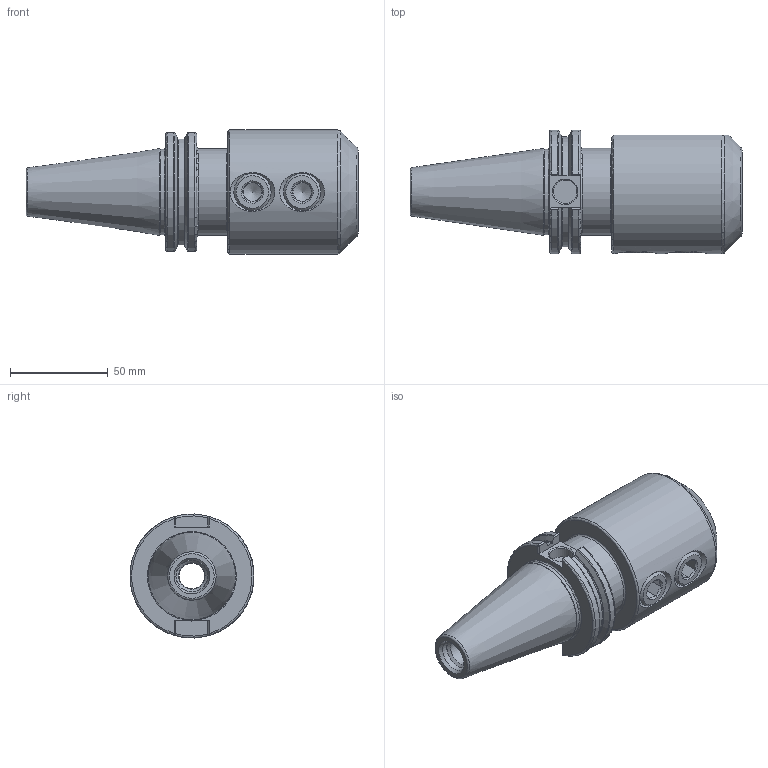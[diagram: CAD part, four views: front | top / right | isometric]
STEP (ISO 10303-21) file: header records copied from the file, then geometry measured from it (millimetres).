
FILE_DESCRIPTION(/* description */ (''),/* implementation_level */ '2;1');
FILE_NAME(/* name */ 'I:\00.2022最新版图纸\SLA---侧固式铣刀柄\侧固刀柄三维模型\CAT40-SLA31.75-101.6.stp',/* time_stamp */ '2022-07-20T10:50:18+08:00',/* author */ ('Administrator'),/* organization */ (''),/* preprocessor_version */ 'ST-DEVELOPER v18.1',/* originating_system */ 'Autodesk Inventor 2022',/* authorisation */ '');
FILE_SCHEMA (('AUTOMOTIVE_DESIGN { 1 0 10303 214 3 1 1 }'));
Length unit declared in the file: millimetre
Products named in the file (3): CAT40-SLA31.75-101; CAT40-SLA31.75-101.6; 3-4-16UNF-15.875
Assembly tree (3 placements, depth 2):
  CAT40-SLA31.75-101
    CAT40-SLA31.75-101.6
    3-4-16UNF-15.875  x2
Bounding box: 169.85 x 63.38 x 63.45 mm (x, y, z)
Volume: 254508.5 mm3; surface area: 49772.2 mm2
Topology: 3 solids, 3 shells, 143 faces, 359 edges, 228 vertices
Faces by surface type: plane 56, cone 26, cylinder 25, torus 20, bspline 16
Full cylindrical faces by diameter (mm): 6 x2, 9.5 x2, 12 x1, 13 x1, 13.5 x1, 16.281 x1, 17.4 x2, 19.05 x2, 19.5 x2, 31.75 x1, 33 x1, 43.85 x1, 44.45 x1
Entity records: 4800 total; most frequent: CARTESIAN_POINT 1804, ORIENTED_EDGE 638, DIRECTION 560, EDGE_CURVE 319, AXIS2_PLACEMENT_3D 212, VERTEX_POINT 204, EDGE_LOOP 139, LINE 136
